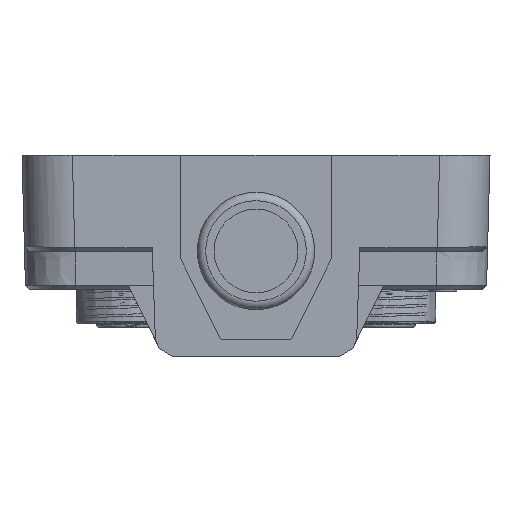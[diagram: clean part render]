
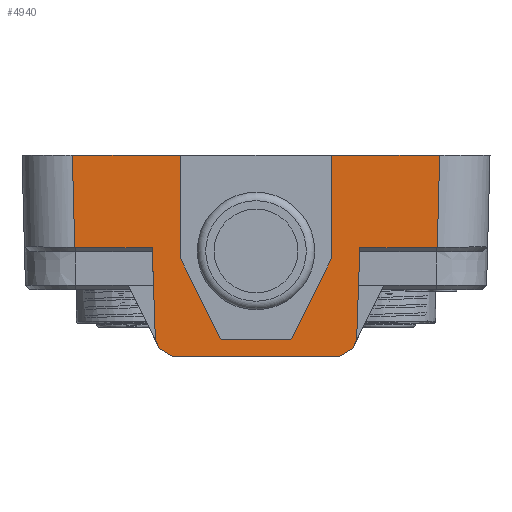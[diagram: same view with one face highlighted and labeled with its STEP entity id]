
A CAD part, left-side view. The second image highlights one B-rep face of the part: STEP entity #4940.
In plain terms, the highlighted planar face has unit normal (-1, 0, 0).
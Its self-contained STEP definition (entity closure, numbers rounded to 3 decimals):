
#513=B_SPLINE_CURVE_WITH_KNOTS('',3,(#49618,#49619,#49620,#49621),
 .UNSPECIFIED.,.F.,.F.,(4,4),(0.,1.),.UNSPECIFIED.);
#514=B_SPLINE_CURVE_WITH_KNOTS('',3,(#49625,#49626,#49627,#49628),
 .UNSPECIFIED.,.F.,.F.,(4,4),(0.,1.),.UNSPECIFIED.);
#515=B_SPLINE_CURVE_WITH_KNOTS('',3,(#49644,#49645,#49646,#49647),
 .UNSPECIFIED.,.F.,.F.,(4,4),(0.,1.),.UNSPECIFIED.);
#516=B_SPLINE_CURVE_WITH_KNOTS('',3,(#49651,#49652,#49653,#49654),
 .UNSPECIFIED.,.F.,.F.,(4,4),(0.,1.),.UNSPECIFIED.);
#4940=ADVANCED_FACE('',(#8002),#6765,.F.);
#6765=PLANE('',#34933);
#8002=FACE_OUTER_BOUND('',#9539,.T.);
#9539=EDGE_LOOP('',(#13905,#13906,#13907,#13908,#13909,#13910,#13911,#13912,
#13913,#13914,#13915,#13916,#13917,#13918,#13919,#13920,#13921,#13922,#13923,
#13924,#13925,#13926));
#13905=ORIENTED_EDGE('',*,*,#25286,.T.);
#13906=ORIENTED_EDGE('',*,*,#25287,.F.);
#13907=ORIENTED_EDGE('',*,*,#25288,.T.);
#13908=ORIENTED_EDGE('',*,*,#25289,.T.);
#13909=ORIENTED_EDGE('',*,*,#25290,.T.);
#13910=ORIENTED_EDGE('',*,*,#25291,.T.);
#13911=ORIENTED_EDGE('',*,*,#25292,.T.);
#13912=ORIENTED_EDGE('',*,*,#25293,.F.);
#13913=ORIENTED_EDGE('',*,*,#25294,.F.);
#13914=ORIENTED_EDGE('',*,*,#25295,.F.);
#13915=ORIENTED_EDGE('',*,*,#25296,.F.);
#13916=ORIENTED_EDGE('',*,*,#25297,.F.);
#13917=ORIENTED_EDGE('',*,*,#25298,.T.);
#13918=ORIENTED_EDGE('',*,*,#25299,.T.);
#13919=ORIENTED_EDGE('',*,*,#25300,.T.);
#13920=ORIENTED_EDGE('',*,*,#25301,.F.);
#13921=ORIENTED_EDGE('',*,*,#25302,.T.);
#13922=ORIENTED_EDGE('',*,*,#25303,.T.);
#13923=ORIENTED_EDGE('',*,*,#25304,.T.);
#13924=ORIENTED_EDGE('',*,*,#25305,.T.);
#13925=ORIENTED_EDGE('',*,*,#25306,.F.);
#13926=ORIENTED_EDGE('',*,*,#25307,.T.);
#21679=VERTEX_POINT('',#49612);
#21680=VERTEX_POINT('',#49613);
#21681=VERTEX_POINT('',#49615);
#21682=VERTEX_POINT('',#49617);
#21683=VERTEX_POINT('',#49622);
#21684=VERTEX_POINT('',#49624);
#21685=VERTEX_POINT('',#49629);
#21686=VERTEX_POINT('',#49631);
#21687=VERTEX_POINT('',#49633);
#21688=VERTEX_POINT('',#49635);
#21689=VERTEX_POINT('',#49637);
#21690=VERTEX_POINT('',#49639);
#21691=VERTEX_POINT('',#49641);
#21692=VERTEX_POINT('',#49643);
#21693=VERTEX_POINT('',#49648);
#21694=VERTEX_POINT('',#49650);
#21695=VERTEX_POINT('',#49655);
#21696=VERTEX_POINT('',#49657);
#21697=VERTEX_POINT('',#49659);
#21698=VERTEX_POINT('',#49661);
#21699=VERTEX_POINT('',#49663);
#21700=VERTEX_POINT('',#49665);
#25286=EDGE_CURVE('',#21679,#21680,#29533,.T.);
#25287=EDGE_CURVE('',#21681,#21680,#29534,.T.);
#25288=EDGE_CURVE('',#21681,#21682,#29535,.T.);
#25289=EDGE_CURVE('',#21682,#21683,#513,.T.);
#25290=EDGE_CURVE('',#21683,#21684,#29536,.T.);
#25291=EDGE_CURVE('',#21684,#21685,#514,.T.);
#25292=EDGE_CURVE('',#21685,#21686,#29537,.T.);
#25293=EDGE_CURVE('',#21687,#21686,#29538,.T.);
#25294=EDGE_CURVE('',#21688,#21687,#29539,.T.);
#25295=EDGE_CURVE('',#21689,#21688,#29540,.T.);
#25296=EDGE_CURVE('',#21690,#21689,#29541,.T.);
#25297=EDGE_CURVE('',#21691,#21690,#29542,.T.);
#25298=EDGE_CURVE('',#21691,#21692,#29543,.T.);
#25299=EDGE_CURVE('',#21692,#21693,#515,.T.);
#25300=EDGE_CURVE('',#21693,#21694,#29544,.T.);
#25301=EDGE_CURVE('',#21695,#21694,#516,.T.);
#25302=EDGE_CURVE('',#21695,#21696,#29545,.T.);
#25303=EDGE_CURVE('',#21696,#21697,#29546,.T.);
#25304=EDGE_CURVE('',#21697,#21698,#29547,.T.);
#25305=EDGE_CURVE('',#21698,#21699,#29548,.T.);
#25306=EDGE_CURVE('',#21700,#21699,#29549,.T.);
#25307=EDGE_CURVE('',#21700,#21679,#29550,.T.);
#29533=LINE('',#49611,#32208);
#29534=LINE('',#49614,#32209);
#29535=LINE('',#49616,#32210);
#29536=LINE('',#49623,#32211);
#29537=LINE('',#49630,#32212);
#29538=LINE('',#49632,#32213);
#29539=LINE('',#49634,#32214);
#29540=LINE('',#49636,#32215);
#29541=LINE('',#49638,#32216);
#29542=LINE('',#49640,#32217);
#29543=LINE('',#49642,#32218);
#29544=LINE('',#49649,#32219);
#29545=LINE('',#49656,#32220);
#29546=LINE('',#49658,#32221);
#29547=LINE('',#49660,#32222);
#29548=LINE('',#49662,#32223);
#29549=LINE('',#49664,#32224);
#29550=LINE('',#49666,#32225);
#32208=VECTOR('',#39894,1.);
#32209=VECTOR('',#39895,1.);
#32210=VECTOR('',#39896,1.);
#32211=VECTOR('',#39897,1.);
#32212=VECTOR('',#39898,1.);
#32213=VECTOR('',#39899,1.);
#32214=VECTOR('',#39900,1.);
#32215=VECTOR('',#39901,1.);
#32216=VECTOR('',#39902,1.);
#32217=VECTOR('',#39903,1.);
#32218=VECTOR('',#39904,1.);
#32219=VECTOR('',#39905,1.);
#32220=VECTOR('',#39906,1.);
#32221=VECTOR('',#39907,1.);
#32222=VECTOR('',#39908,1.);
#32223=VECTOR('',#39909,1.);
#32224=VECTOR('',#39910,1.);
#32225=VECTOR('',#39911,1.);
#34933=AXIS2_PLACEMENT_3D('',#49667,#39912,#39913);
#39894=DIRECTION('',(0.,-0.447,0.894));
#39895=DIRECTION('',(0.,0.035,-0.999));
#39896=DIRECTION('',(0.,-1.,0.));
#39897=DIRECTION('',(0.,-0.026,1.));
#39898=DIRECTION('',(0.,1.,0.));
#39899=DIRECTION('',(0.,0.,1.));
#39900=DIRECTION('',(0.,-0.447,0.894));
#39901=DIRECTION('',(0.,-1.,0.));
#39902=DIRECTION('',(0.,-0.447,-0.894));
#39903=DIRECTION('',(0.,0.,-1.));
#39904=DIRECTION('',(0.,1.,0.));
#39905=DIRECTION('',(0.,-0.026,-1.));
#39906=DIRECTION('',(0.,-1.,0.));
#39907=DIRECTION('',(0.,-0.035,-0.999));
#39908=DIRECTION('',(0.,-0.447,-0.894));
#39909=DIRECTION('',(0.,-0.851,-0.526));
#39910=DIRECTION('',(0.,1.,0.));
#39911=DIRECTION('',(0.,-0.851,0.526));
#39912=DIRECTION('',(1.,0.,0.));
#39913=DIRECTION('',(0.,0.,-1.));
#49611=CARTESIAN_POINT('',(0.,16.5,-8.));
#49612=CARTESIAN_POINT('',(0.,16.053,-7.106));
#49613=CARTESIAN_POINT('',(0.,15.5,-6.));
#49614=CARTESIAN_POINT('',(0.,15.5,-6.));
#49615=CARTESIAN_POINT('',(0.,15.116,5.));
#49616=CARTESIAN_POINT('',(0.,6.,5.));
#49617=CARTESIAN_POINT('',(0.,6.,5.));
#49618=CARTESIAN_POINT('',(0.,6.,5.));
#49619=CARTESIAN_POINT('',(0.,5.961,5.));
#49620=CARTESIAN_POINT('',(0.,5.923,5.001));
#49621=CARTESIAN_POINT('',(0.,5.884,5.001));
#49622=CARTESIAN_POINT('',(0.,5.884,5.001));
#49623=CARTESIAN_POINT('',(0.,5.578,16.706));
#49624=CARTESIAN_POINT('',(0.,5.596,16.));
#49625=CARTESIAN_POINT('',(0.,5.596,16.));
#49626=CARTESIAN_POINT('',(0.,5.731,16.));
#49627=CARTESIAN_POINT('',(0.,5.865,16.));
#49628=CARTESIAN_POINT('',(0.,6.,16.));
#49629=CARTESIAN_POINT('',(0.,6.,16.));
#49630=CARTESIAN_POINT('',(0.,55.,16.));
#49631=CARTESIAN_POINT('',(0.,18.5,16.));
#49632=CARTESIAN_POINT('',(0.,18.5,3.653));
#49633=CARTESIAN_POINT('',(0.,18.5,3.653));
#49634=CARTESIAN_POINT('',(0.,20.061,0.53));
#49635=CARTESIAN_POINT('',(0.,23.326,-6.));
#49636=CARTESIAN_POINT('',(0.,55.,-6.));
#49637=CARTESIAN_POINT('',(0.,31.674,-6.));
#49638=CARTESIAN_POINT('',(0.,36.5,3.652));
#49639=CARTESIAN_POINT('',(0.,36.5,3.652));
#49640=CARTESIAN_POINT('',(0.,36.5,16.));
#49641=CARTESIAN_POINT('',(0.,36.5,16.));
#49642=CARTESIAN_POINT('',(0.,55.,16.));
#49643=CARTESIAN_POINT('',(0.,49.,16.));
#49644=CARTESIAN_POINT('',(0.,49.,16.));
#49645=CARTESIAN_POINT('',(0.,49.135,16.));
#49646=CARTESIAN_POINT('',(0.,49.269,16.));
#49647=CARTESIAN_POINT('',(0.,49.404,16.));
#49648=CARTESIAN_POINT('',(0.,49.404,16.));
#49649=CARTESIAN_POINT('',(0.,49.46,18.145));
#49650=CARTESIAN_POINT('',(0.,49.116,5.001));
#49651=CARTESIAN_POINT('',(0.,49.,5.));
#49652=CARTESIAN_POINT('',(0.,49.039,5.));
#49653=CARTESIAN_POINT('',(0.,49.077,5.001));
#49654=CARTESIAN_POINT('',(0.,49.116,5.001));
#49655=CARTESIAN_POINT('',(0.,49.,5.));
#49656=CARTESIAN_POINT('',(0.,39.5,5.));
#49657=CARTESIAN_POINT('',(0.,39.884,5.));
#49658=CARTESIAN_POINT('',(0.,40.356,18.511));
#49659=CARTESIAN_POINT('',(0.,39.5,-6.));
#49660=CARTESIAN_POINT('',(0.,38.5,-8.));
#49661=CARTESIAN_POINT('',(0.,38.947,-7.106));
#49662=CARTESIAN_POINT('',(0.,37.5,-8.));
#49663=CARTESIAN_POINT('',(0.,37.5,-8.));
#49664=CARTESIAN_POINT('',(0.,12.5,-8.));
#49665=CARTESIAN_POINT('',(0.,17.5,-8.));
#49666=CARTESIAN_POINT('',(0.,17.5,-8.));
#49667=CARTESIAN_POINT('',(0.,55.,18.));
